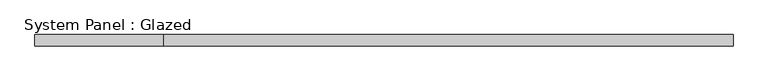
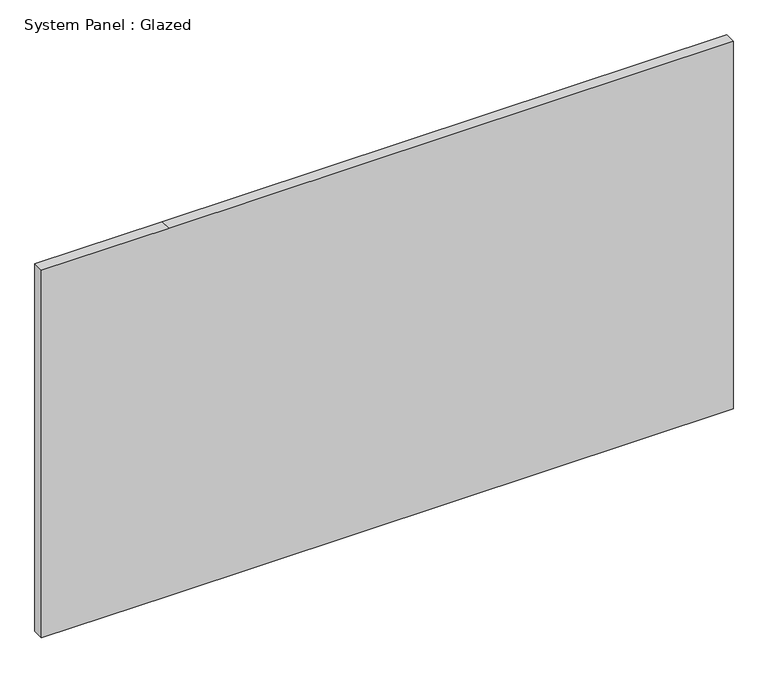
"""IFC4 building model written with IfcOpenShell, lengths in millimetres: plate geometry, System Panel : Glazed."""

from ifc_helpers import new_model, si_unit, frame, origin, place, context, project, spatial, polyline, outline, extrude, source, transform, mapped, element, save


def system_panel_glazed_3fe504bb(model_context):
    return source(origin(), model_context, "Body", "SweptSolid", [
        extrude(outline(polyline([(0.0, -774.7), (0.0, -488.95), (0.0, 774.7), (869.95, 774.7), (869.95, -488.95), (869.95, -774.7), (0.0, -774.7)])), frame((0.0, 19.05, 0.0), z_axis=(0.0, 1.0, 0.0), x_axis=(0.0, 0.0, 1.0)), (0.0, 0.0, 1.0), 25.4),
    ])


if __name__ == "__main__":
    model = new_model("IFC4")
    model_context = context("Model", 3, world=origin())
    ifc_project = project(units=[si_unit("LENGTHUNIT", "METRE", prefix="MILLI")], contexts=[model_context])
    site = spatial("IfcSite", under=ifc_project)
    building = spatial("IfcBuilding", under=site)
    placement = place(None, origin())
    system_panel_glazed_shape = system_panel_glazed_3fe504bb(model_context)
    element("IfcPlate", 1, ObjectType="System Panel : Glazed", at=placement, inside=building, context=model_context, shape_type="MappedRepresentation", body=[
        mapped(system_panel_glazed_shape, transform((0.0, 0.0, 0.0), x_axis=(1.0, 0.0, 0.0), y_axis=(0.0, 1.0, 0.0), z_axis=(0.0, 0.0, 1.0))),
    ])
    save(model, "model.ifc")
